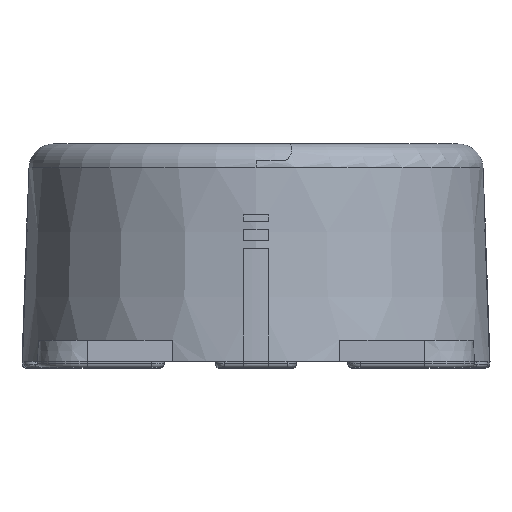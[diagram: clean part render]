
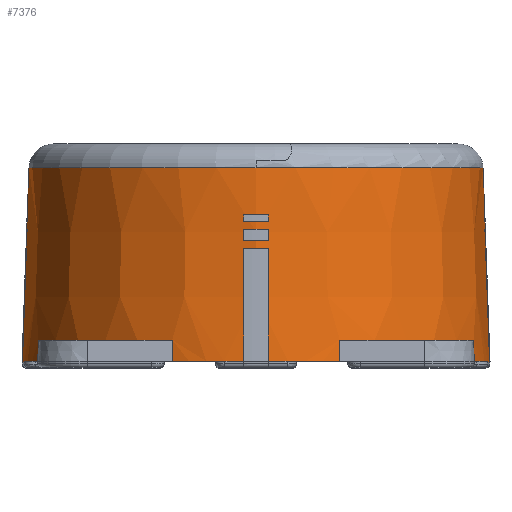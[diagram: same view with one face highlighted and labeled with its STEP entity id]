
A CAD part, top view. The second image highlights one B-rep face of the part: STEP entity #7376.
In plain terms, the highlighted conical face has half-angle 2 degrees and reference radius 18.479 mm.
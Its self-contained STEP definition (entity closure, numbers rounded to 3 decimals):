
#260=CARTESIAN_POINT('',(0.,0.,0.));
#261=DIRECTION('',(0.,1.,0.));
#262=DIRECTION('',(0.933,0.,0.359));
#263=AXIS2_PLACEMENT_3D('',#260,#261,#262);
#290=CARTESIAN_POINT('',(0.,0.,0.));
#291=DIRECTION('',(0.,1.,0.));
#292=DIRECTION('',(0.137,0.,0.991));
#293=AXIS2_PLACEMENT_3D('',#290,#291,#292);
#298=CARTESIAN_POINT('',(0.,0.,0.));
#299=DIRECTION('',(0.,1.,0.));
#300=DIRECTION('',(-0.359,0.,0.933));
#301=AXIS2_PLACEMENT_3D('',#298,#299,#300);
#328=CARTESIAN_POINT('',(0.,0.,0.));
#329=DIRECTION('',(0.,1.,0.));
#330=DIRECTION('',(-0.991,0.,0.137));
#331=AXIS2_PLACEMENT_3D('',#328,#329,#330);
#1168=CARTESIAN_POINT('',(0.,15.52,0.));
#1169=DIRECTION('',(0.,1.,0.));
#1170=DIRECTION('',(-1.,0.,0.));
#1171=AXIS2_PLACEMENT_3D('',#1168,#1169,#1170);
#1176=CARTESIAN_POINT('',(0.,15.52,0.));
#1177=DIRECTION('',(0.,1.,0.));
#1178=DIRECTION('',(0.,0.,1.));
#1179=AXIS2_PLACEMENT_3D('',#1176,#1177,#1178);
#1184=CARTESIAN_POINT('',(17.5,0.,6.731));
#1185=CARTESIAN_POINT('',(17.493,0.189,6.73));
#1186=CARTESIAN_POINT('',(17.48,0.567,6.728));
#1187=CARTESIAN_POINT('',(17.46,1.134,6.724));
#1188=CARTESIAN_POINT('',(17.447,1.511,6.722));
#1189=CARTESIAN_POINT('',(17.441,1.7,6.72));
#1194=CARTESIAN_POINT('',(0.,1.7,0.));
#1195=DIRECTION('',(0.,1.,0.));
#1196=DIRECTION('',(0.36,0.,0.933));
#1197=AXIS2_PLACEMENT_3D('',#1194,#1195,#1196);
#1202=CARTESIAN_POINT('',(6.72,1.7,17.441));
#1203=CARTESIAN_POINT('',(6.722,1.511,17.447));
#1204=CARTESIAN_POINT('',(6.724,1.134,17.46));
#1205=CARTESIAN_POINT('',(6.728,0.567,17.48));
#1206=CARTESIAN_POINT('',(6.73,0.189,17.493));
#1207=CARTESIAN_POINT('',(6.731,0.,17.5));
#1212=CARTESIAN_POINT('',(-6.731,0.,17.5));
#1213=CARTESIAN_POINT('',(-6.73,0.189,
17.493));
#1214=CARTESIAN_POINT('',(-6.728,0.567,
17.48));
#1215=CARTESIAN_POINT('',(-6.724,1.134,17.46));
#1216=CARTESIAN_POINT('',(-6.722,1.511,17.447));
#1217=CARTESIAN_POINT('',(-6.72,1.7,17.441));
#1222=CARTESIAN_POINT('',(0.,1.7,0.));
#1223=DIRECTION('',(0.,1.,0.));
#1224=DIRECTION('',(-0.933,0.,0.36));
#1225=AXIS2_PLACEMENT_3D('',#1222,#1223,#1224);
#1230=CARTESIAN_POINT('',(-17.441,1.7,6.72));
#1231=CARTESIAN_POINT('',(-17.447,1.511,6.722));
#1232=CARTESIAN_POINT('',(-17.46,1.134,6.724));
#1233=CARTESIAN_POINT('',(-17.48,0.567,
6.728));
#1234=CARTESIAN_POINT('',(-17.493,0.189,
6.73));
#1235=CARTESIAN_POINT('',(-17.5,0.,6.731));
#1255=CARTESIAN_POINT('',(0.,0.,0.));
#1256=DIRECTION('',(0.,1.,0.));
#1257=DIRECTION('',(-1.,0.,0.));
#1258=AXIS2_PLACEMENT_3D('',#1255,#1256,#1257);
#1285=CARTESIAN_POINT('',(0.,0.,0.));
#1286=DIRECTION('',(0.,1.,0.));
#1287=DIRECTION('',(0.991,0.,0.137));
#1288=AXIS2_PLACEMENT_3D('',#1285,#1286,#1287);
#1315=CARTESIAN_POINT('',(0.,0.,0.));
#1316=DIRECTION('',(0.,1.,0.));
#1317=DIRECTION('',(-0.137,0.,0.991));
#1318=AXIS2_PLACEMENT_3D('',#1315,#1316,#1317);
#3307=DIRECTION('',(0.035,-0.999,0.));
#3308=VECTOR('',#3307,15.529);
#3309=CARTESIAN_POINT('',(18.208,15.52,0.));
#3310=LINE('',#3309,#3308);
#3330=DIRECTION('',(-0.035,-0.999,0.));
#3331=VECTOR('',#3330,15.529);
#3332=CARTESIAN_POINT('',(-18.208,15.52,0.));
#3333=LINE('',#3332,#3331);
#6132=CARTESIAN_POINT('',(-18.208,15.52,0.));
#6133=CARTESIAN_POINT('',(0.,15.52,18.208));
#6134=VERTEX_POINT('',#6132);
#6135=VERTEX_POINT('',#6133);
#6136=CARTESIAN_POINT('',(18.208,15.52,0.));
#6137=VERTEX_POINT('',#6136);
#6140=CARTESIAN_POINT('',(-18.75,0.,0.));
#6141=VERTEX_POINT('',#6140);
#6142=CARTESIAN_POINT('',(18.75,0.,0.));
#6143=VERTEX_POINT('',#6142);
#6144=CARTESIAN_POINT('',(-18.573,0.,
2.569));
#6145=VERTEX_POINT('',#6144);
#6146=CARTESIAN_POINT('',(-2.569,0.,18.573));
#6147=CARTESIAN_POINT('',(2.569,0.,18.573));
#6148=VERTEX_POINT('',#6146);
#6149=VERTEX_POINT('',#6147);
#6150=CARTESIAN_POINT('',(18.573,0.,2.569));
#6151=VERTEX_POINT('',#6150);
#6188=CARTESIAN_POINT('',(-17.441,1.7,6.72));
#6189=CARTESIAN_POINT('',(-6.72,1.7,17.441));
#6190=VERTEX_POINT('',#6188);
#6191=VERTEX_POINT('',#6189);
#6192=CARTESIAN_POINT('',(6.72,1.7,17.441));
#6193=CARTESIAN_POINT('',(17.441,1.7,6.72));
#6194=VERTEX_POINT('',#6192);
#6195=VERTEX_POINT('',#6193);
#6396=CARTESIAN_POINT('',(6.731,0.,17.5));
#6397=VERTEX_POINT('',#6396);
#6398=CARTESIAN_POINT('',(17.5,0.,6.731));
#6399=VERTEX_POINT('',#6398);
#6432=CARTESIAN_POINT('',(-17.5,0.,6.731));
#6433=VERTEX_POINT('',#6432);
#6434=CARTESIAN_POINT('',(-6.731,0.,17.5));
#6435=VERTEX_POINT('',#6434);
#7343=CARTESIAN_POINT('',(0.,7.76,0.));
#7344=DIRECTION('',(0.,-1.,0.));
#7345=DIRECTION('',(-1.,0.,0.));
#7346=AXIS2_PLACEMENT_3D('',#7343,#7344,#7345);
#7347=CONICAL_SURFACE('',#7346,18.479,2.);
#7348=ORIENTED_EDGE('',*,*,#6763,.F.);
#7350=ORIENTED_EDGE('',*,*,#7349,.F.);
#7352=ORIENTED_EDGE('',*,*,#7351,.F.);
#7354=ORIENTED_EDGE('',*,*,#7353,.T.);
#7356=ORIENTED_EDGE('',*,*,#7355,.T.);
#7358=ORIENTED_EDGE('',*,*,#7357,.T.);
#7360=ORIENTED_EDGE('',*,*,#7359,.F.);
#7361=ORIENTED_EDGE('',*,*,#6719,.F.);
#7363=ORIENTED_EDGE('',*,*,#7362,.T.);
#7364=ORIENTED_EDGE('',*,*,#7336,.F.);
#7366=ORIENTED_EDGE('',*,*,#7365,.T.);
#7367=ORIENTED_EDGE('',*,*,#6735,.F.);
#7369=ORIENTED_EDGE('',*,*,#7368,.F.);
#7370=ORIENTED_EDGE('',*,*,#6747,.F.);
#7371=ORIENTED_EDGE('',*,*,#7277,.T.);
#7372=ORIENTED_EDGE('',*,*,#7290,.F.);
#7373=ORIENTED_EDGE('',*,*,#7247,.T.);
#7374=EDGE_LOOP('',(#7348,#7350,#7352,#7354,#7356,#7358,#7360,#7361,#7363,#7364,
#7366,#7367,#7369,#7370,#7371,#7372,#7373));
#7375=FACE_OUTER_BOUND('',#7374,.F.);
#264=CIRCLE('',#263,18.75);
#294=CIRCLE('',#293,18.75);
#302=CIRCLE('',#301,18.75);
#332=CIRCLE('',#331,18.75);
#1172=CIRCLE('',#1171,18.208);
#1180=CIRCLE('',#1179,18.208);
#1190=B_SPLINE_CURVE_WITH_KNOTS('',3,(#1184,#1185,#1186,#1187,#1188,#1189),
.UNSPECIFIED.,.F.,.F.,(4,1,1,4),(0.,0.333,0.667,1.),
.UNSPECIFIED.);
#1198=CIRCLE('',#1197,18.691);
#1208=B_SPLINE_CURVE_WITH_KNOTS('',3,(#1202,#1203,#1204,#1205,#1206,#1207),
.UNSPECIFIED.,.F.,.F.,(4,1,1,4),(0.,0.333,0.667,1.),
.UNSPECIFIED.);
#1218=B_SPLINE_CURVE_WITH_KNOTS('',3,(#1212,#1213,#1214,#1215,#1216,#1217),
.UNSPECIFIED.,.F.,.F.,(4,1,1,4),(0.,0.333,0.667,1.),
.UNSPECIFIED.);
#1226=CIRCLE('',#1225,18.691);
#1236=B_SPLINE_CURVE_WITH_KNOTS('',3,(#1230,#1231,#1232,#1233,#1234,#1235),
.UNSPECIFIED.,.F.,.F.,(4,1,1,4),(0.,0.333,0.667,1.),
.UNSPECIFIED.);
#1259=CIRCLE('',#1258,18.75);
#1289=CIRCLE('',#1288,18.75);
#1319=CIRCLE('',#1318,18.75);
#6719=EDGE_CURVE('',#6399,#6151,#264,.T.);
#6735=EDGE_CURVE('',#6149,#6397,#294,.T.);
#6747=EDGE_CURVE('',#6435,#6148,#302,.T.);
#6763=EDGE_CURVE('',#6145,#6433,#332,.T.);
#7247=EDGE_CURVE('',#6190,#6433,#1236,.T.);
#7277=EDGE_CURVE('',#6435,#6191,#1218,.T.);
#7290=EDGE_CURVE('',#6190,#6191,#1226,.T.);
#7336=EDGE_CURVE('',#6194,#6195,#1198,.T.);
#7349=EDGE_CURVE('',#6141,#6145,#1259,.T.);
#7351=EDGE_CURVE('',#6134,#6141,#3333,.T.);
#7353=EDGE_CURVE('',#6134,#6135,#1172,.T.);
#7355=EDGE_CURVE('',#6135,#6137,#1180,.T.);
#7357=EDGE_CURVE('',#6137,#6143,#3310,.T.);
#7359=EDGE_CURVE('',#6151,#6143,#1289,.T.);
#7362=EDGE_CURVE('',#6399,#6195,#1190,.T.);
#7365=EDGE_CURVE('',#6194,#6397,#1208,.T.);
#7368=EDGE_CURVE('',#6148,#6149,#1319,.T.);
#7376=ADVANCED_FACE('',(#7375),#7347,.T.);
